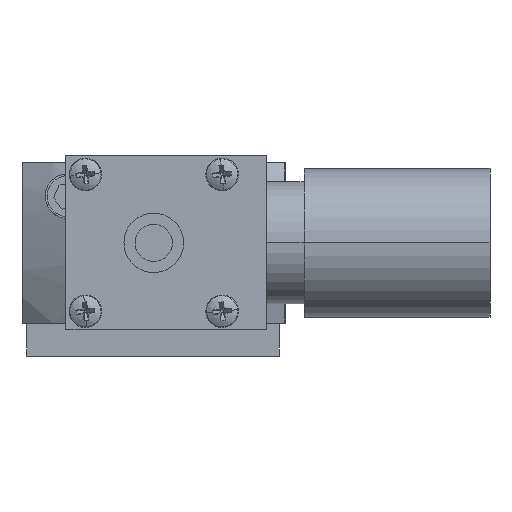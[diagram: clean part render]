
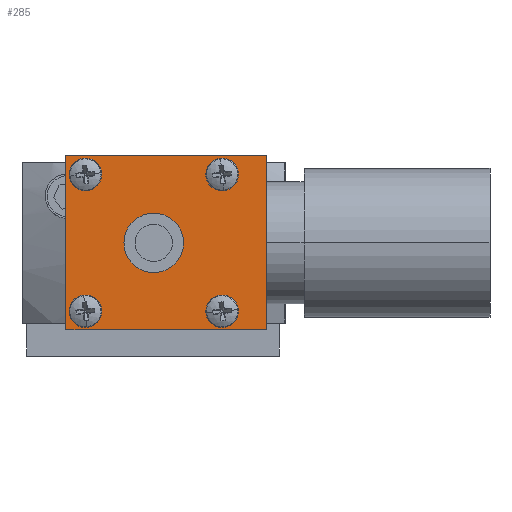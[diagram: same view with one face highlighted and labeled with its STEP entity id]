
A CAD part, left-side view. The second image highlights one B-rep face of the part: STEP entity #285.
In plain terms, the highlighted planar face has unit normal (-1, 0, 0).
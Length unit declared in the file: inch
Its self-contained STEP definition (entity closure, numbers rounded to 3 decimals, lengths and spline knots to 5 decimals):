
#113 = CIRCLE ( 'NONE', #4030, 0.065 ) ;
#138 = VERTEX_POINT ( 'NONE', #3847 ) ;
#285 = ADVANCED_FACE ( 'NONE', ( #2180, #8364, #2923, #473, #7631, #8573 ), #5312, .T. ) ;
#310 = DIRECTION ( 'NONE',  ( -1., 0., 0. ) ) ;
#358 = DIRECTION ( 'NONE',  ( 0., -1., 0. ) ) ;
#453 = CARTESIAN_POINT ( 'NONE',  ( -3.25978, 0.41522, -0.46737 ) ) ;
#473 = FACE_BOUND ( 'NONE', #9273, .T. ) ;
#487 = ORIENTED_EDGE ( 'NONE', *, *, #10303, .F. ) ;
#803 = DIRECTION ( 'NONE',  ( 0., 1., 0. ) ) ;
#852 = CARTESIAN_POINT ( 'NONE',  ( -3.25978, -0.93478, -0.46737 ) ) ;
#939 = CIRCLE ( 'NONE', #3858, 0.2 ) ;
#1017 = CARTESIAN_POINT ( 'NONE',  ( -3.25978, -0.17478, 0.11763 ) ) ;
#1228 = DIRECTION ( 'NONE',  ( -1., 0., 0. ) ) ;
#1292 = CARTESIAN_POINT ( 'NONE',  ( -3.25978, -0.17478, 0.11763 ) ) ;
#1389 = CARTESIAN_POINT ( 'NONE',  ( -3.25978, 0.34984, -0.34199 ) ) ;
#1539 = AXIS2_PLACEMENT_3D ( 'NONE', #5367, #310, #358 ) ;
#1595 = CARTESIAN_POINT ( 'NONE',  ( -3.25978, -0.37478, 0.11763 ) ) ;
#1696 = LINE ( 'NONE', #852, #6505 ) ;
#1748 = DIRECTION ( 'NONE',  ( 0., -1., 0. ) ) ;
#1799 = CIRCLE ( 'NONE', #3331, 0.065 ) ;
#1831 = CARTESIAN_POINT ( 'NONE',  ( -3.25978, 0.21984, -0.34199 ) ) ;
#1879 = ORIENTED_EDGE ( 'NONE', *, *, #5751, .F. ) ;
#1884 = AXIS2_PLACEMENT_3D ( 'NONE', #4597, #5435, #3701 ) ;
#1935 = EDGE_LOOP ( 'NONE', ( #5528, #3994 ) ) ;
#2136 = ORIENTED_EDGE ( 'NONE', *, *, #7475, .F. ) ;
#2180 = FACE_BOUND ( 'NONE', #2616, .T. ) ;
#2446 = ORIENTED_EDGE ( 'NONE', *, *, #9037, .F. ) ;
#2616 = EDGE_LOOP ( 'NONE', ( #7770, #3815 ) ) ;
#2707 = VERTEX_POINT ( 'NONE', #5458 ) ;
#2764 = DIRECTION ( 'NONE',  ( 0., -1., 0. ) ) ;
#2780 = CARTESIAN_POINT ( 'NONE',  ( -3.25978, -0.6344, -0.34199 ) ) ;
#2923 = FACE_BOUND ( 'NONE', #3361, .T. ) ;
#3031 = VERTEX_POINT ( 'NONE', #8554 ) ;
#3331 = AXIS2_PLACEMENT_3D ( 'NONE', #9145, #7522, #3521 ) ;
#3361 = EDGE_LOOP ( 'NONE', ( #7758, #5786 ) ) ;
#3377 = VERTEX_POINT ( 'NONE', #9078 ) ;
#3398 = VERTEX_POINT ( 'NONE', #1831 ) ;
#3487 = DIRECTION ( 'NONE',  ( 0., 0., -1. ) ) ;
#3496 = EDGE_CURVE ( 'NONE', #3377, #9800, #5189, .T. ) ;
#3521 = DIRECTION ( 'NONE',  ( 0., 1., 0. ) ) ;
#3573 = DIRECTION ( 'NONE',  ( 0., 0., 1. ) ) ;
#3594 = VECTOR ( 'NONE', #8809, 39.37008 ) ;
#3678 = AXIS2_PLACEMENT_3D ( 'NONE', #8950, #8999, #1748 ) ;
#3701 = DIRECTION ( 'NONE',  ( 0., 0., -1. ) ) ;
#3717 = CARTESIAN_POINT ( 'NONE',  ( -3.25978, -0.5694, -0.34199 ) ) ;
#3758 = DIRECTION ( 'NONE',  ( 0., -1., 0. ) ) ;
#3815 = ORIENTED_EDGE ( 'NONE', *, *, #8143, .F. ) ;
#3847 = CARTESIAN_POINT ( 'NONE',  ( -3.25978, -0.93478, -0.46737 ) ) ;
#3858 = AXIS2_PLACEMENT_3D ( 'NONE', #1292, #7773, #3758 ) ;
#3959 = ORIENTED_EDGE ( 'NONE', *, *, #9664, .F. ) ;
#3994 = ORIENTED_EDGE ( 'NONE', *, *, #4236, .T. ) ;
#4030 = AXIS2_PLACEMENT_3D ( 'NONE', #10461, #9734, #5675 ) ;
#4236 = EDGE_CURVE ( 'NONE', #10080, #3031, #939, .T. ) ;
#4271 = DIRECTION ( 'NONE',  ( 1., 0., 0. ) ) ;
#4509 = VECTOR ( 'NONE', #10326, 39.37008 ) ;
#4597 = CARTESIAN_POINT ( 'NONE',  ( -3.25978, -0.6344, 0.57725 ) ) ;
#5189 = CIRCLE ( 'NONE', #8379, 0.065 ) ;
#5242 = EDGE_CURVE ( 'NONE', #3031, #10080, #5700, .T. ) ;
#5312 = PLANE ( 'NONE',  #1539 ) ;
#5367 = CARTESIAN_POINT ( 'NONE',  ( -3.25978, 0.41522, 0.70263 ) ) ;
#5389 = ORIENTED_EDGE ( 'NONE', *, *, #8775, .F. ) ;
#5435 = DIRECTION ( 'NONE',  ( -1., 0., 0. ) ) ;
#5458 = CARTESIAN_POINT ( 'NONE',  ( -3.25978, -0.93478, 0.70263 ) ) ;
#5479 = ORIENTED_EDGE ( 'NONE', *, *, #6297, .F. ) ;
#5528 = ORIENTED_EDGE ( 'NONE', *, *, #5242, .T. ) ;
#5675 = DIRECTION ( 'NONE',  ( 0., -1., 0. ) ) ;
#5700 = CIRCLE ( 'NONE', #8386, 0.2 ) ;
#5734 = CIRCLE ( 'NONE', #7080, 0.065 ) ;
#5751 = EDGE_CURVE ( 'NONE', #10471, #10367, #113, .T. ) ;
#5786 = ORIENTED_EDGE ( 'NONE', *, *, #3496, .F. ) ;
#5957 = CIRCLE ( 'NONE', #1884, 0.065 ) ;
#5980 = VERTEX_POINT ( 'NONE', #3717 ) ;
#6015 = CARTESIAN_POINT ( 'NONE',  ( -3.25978, -0.6344, 0.57725 ) ) ;
#6070 = DIRECTION ( 'NONE',  ( 0., 1., 0. ) ) ;
#6297 = EDGE_CURVE ( 'NONE', #7254, #7298, #8524, .T. ) ;
#6298 = DIRECTION ( 'NONE',  ( 0., 0., 1. ) ) ;
#6431 = CARTESIAN_POINT ( 'NONE',  ( -3.25978, -0.93478, 0.70263 ) ) ;
#6505 = VECTOR ( 'NONE', #803, 39.37008 ) ;
#6831 = EDGE_CURVE ( 'NONE', #3398, #9631, #5734, .T. ) ;
#6882 = EDGE_LOOP ( 'NONE', ( #5479, #2446, #2136, #3959 ) ) ;
#7038 = CARTESIAN_POINT ( 'NONE',  ( -3.25978, 0.28484, -0.34199 ) ) ;
#7080 = AXIS2_PLACEMENT_3D ( 'NONE', #7038, #9357, #6298 ) ;
#7254 = VERTEX_POINT ( 'NONE', #453 ) ;
#7298 = VERTEX_POINT ( 'NONE', #10337 ) ;
#7475 = EDGE_CURVE ( 'NONE', #2707, #138, #8866, .T. ) ;
#7522 = DIRECTION ( 'NONE',  ( -1., 0., 0. ) ) ;
#7626 = EDGE_CURVE ( 'NONE', #9800, #3377, #5957, .T. ) ;
#7631 = FACE_BOUND ( 'NONE', #1935, .T. ) ;
#7747 = CARTESIAN_POINT ( 'NONE',  ( -3.25978, 0.41522, -0.46737 ) ) ;
#7758 = ORIENTED_EDGE ( 'NONE', *, *, #7626, .F. ) ;
#7759 = VECTOR ( 'NONE', #8579, 39.37008 ) ;
#7770 = ORIENTED_EDGE ( 'NONE', *, *, #6831, .F. ) ;
#7773 = DIRECTION ( 'NONE',  ( 1., 0., 0. ) ) ;
#7923 = LINE ( 'NONE', #6431, #4509 ) ;
#7994 = CARTESIAN_POINT ( 'NONE',  ( -3.25978, 0.34984, 0.57725 ) ) ;
#8143 = EDGE_CURVE ( 'NONE', #9631, #3398, #8345, .T. ) ;
#8189 = AXIS2_PLACEMENT_3D ( 'NONE', #9901, #9058, #3573 ) ;
#8196 = AXIS2_PLACEMENT_3D ( 'NONE', #2780, #8437, #6070 ) ;
#8252 = EDGE_LOOP ( 'NONE', ( #487, #5389 ) ) ;
#8278 = CARTESIAN_POINT ( 'NONE',  ( -3.25978, -0.6994, 0.57725 ) ) ;
#8345 = CIRCLE ( 'NONE', #8189, 0.065 ) ;
#8364 = FACE_BOUND ( 'NONE', #8252, .T. ) ;
#8379 = AXIS2_PLACEMENT_3D ( 'NONE', #6015, #1228, #3487 ) ;
#8386 = AXIS2_PLACEMENT_3D ( 'NONE', #1017, #4271, #2764 ) ;
#8416 = CARTESIAN_POINT ( 'NONE',  ( -3.25978, 0.21984, 0.57725 ) ) ;
#8437 = DIRECTION ( 'NONE',  ( -1., 0., 0. ) ) ;
#8524 = LINE ( 'NONE', #7747, #7759 ) ;
#8554 = CARTESIAN_POINT ( 'NONE',  ( -3.25978, 0.02522, 0.11763 ) ) ;
#8573 = FACE_OUTER_BOUND ( 'NONE', #6882, .T. ) ;
#8579 = DIRECTION ( 'NONE',  ( 0., 0., 1. ) ) ;
#8775 = EDGE_CURVE ( 'NONE', #5980, #9816, #9868, .T. ) ;
#8809 = DIRECTION ( 'NONE',  ( 0., 0., -1. ) ) ;
#8866 = LINE ( 'NONE', #9612, #3594 ) ;
#8950 = CARTESIAN_POINT ( 'NONE',  ( -3.25978, 0.28484, 0.57725 ) ) ;
#8999 = DIRECTION ( 'NONE',  ( -1., 0., 0. ) ) ;
#9037 = EDGE_CURVE ( 'NONE', #138, #7254, #1696, .T. ) ;
#9058 = DIRECTION ( 'NONE',  ( -1., 0., 0. ) ) ;
#9078 = CARTESIAN_POINT ( 'NONE',  ( -3.25978, -0.5694, 0.57725 ) ) ;
#9145 = CARTESIAN_POINT ( 'NONE',  ( -3.25978, -0.6344, -0.34199 ) ) ;
#9273 = EDGE_LOOP ( 'NONE', ( #9930, #1879 ) ) ;
#9357 = DIRECTION ( 'NONE',  ( -1., 0., 0. ) ) ;
#9398 = CIRCLE ( 'NONE', #3678, 0.065 ) ;
#9612 = CARTESIAN_POINT ( 'NONE',  ( -3.25978, -0.93478, -0.46737 ) ) ;
#9631 = VERTEX_POINT ( 'NONE', #1389 ) ;
#9664 = EDGE_CURVE ( 'NONE', #7298, #2707, #7923, .T. ) ;
#9734 = DIRECTION ( 'NONE',  ( -1., 0., 0. ) ) ;
#9800 = VERTEX_POINT ( 'NONE', #8278 ) ;
#9816 = VERTEX_POINT ( 'NONE', #9956 ) ;
#9868 = CIRCLE ( 'NONE', #8196, 0.065 ) ;
#9901 = CARTESIAN_POINT ( 'NONE',  ( -3.25978, 0.28484, -0.34199 ) ) ;
#9930 = ORIENTED_EDGE ( 'NONE', *, *, #10242, .F. ) ;
#9956 = CARTESIAN_POINT ( 'NONE',  ( -3.25978, -0.6994, -0.34199 ) ) ;
#10080 = VERTEX_POINT ( 'NONE', #1595 ) ;
#10242 = EDGE_CURVE ( 'NONE', #10367, #10471, #9398, .T. ) ;
#10303 = EDGE_CURVE ( 'NONE', #9816, #5980, #1799, .T. ) ;
#10326 = DIRECTION ( 'NONE',  ( 0., -1., 0. ) ) ;
#10337 = CARTESIAN_POINT ( 'NONE',  ( -3.25978, 0.41522, 0.70263 ) ) ;
#10367 = VERTEX_POINT ( 'NONE', #8416 ) ;
#10461 = CARTESIAN_POINT ( 'NONE',  ( -3.25978, 0.28484, 0.57725 ) ) ;
#10471 = VERTEX_POINT ( 'NONE', #7994 ) ;
